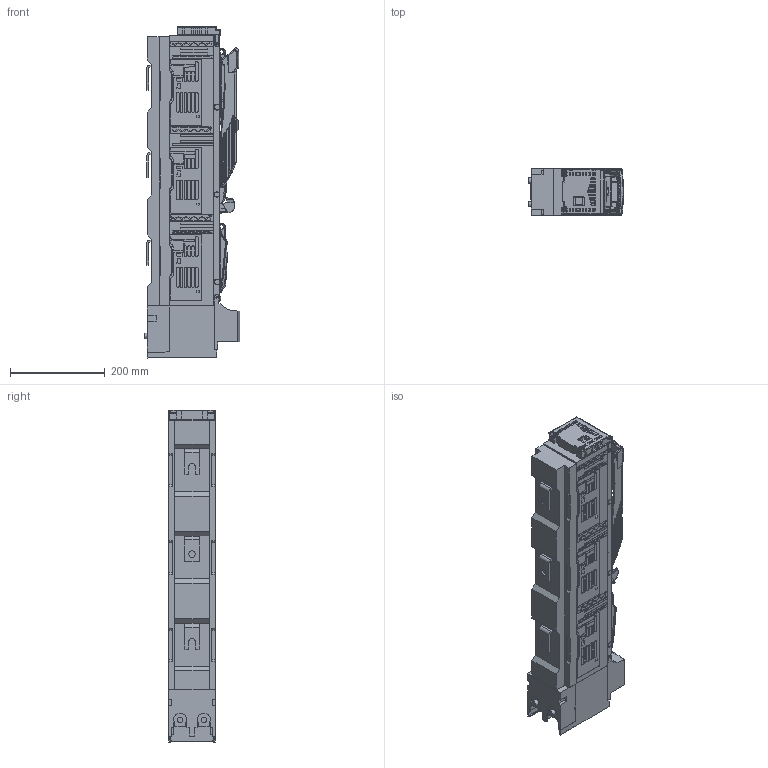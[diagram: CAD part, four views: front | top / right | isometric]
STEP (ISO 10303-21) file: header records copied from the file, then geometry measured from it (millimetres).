
FILE_DESCRIPTION(/* description */ (''),/* implementation_level */ '2;1');
FILE_NAME(/* name */ 'smartARS 3-6-M.stp',/* time_stamp */ '2019-11-19T14:22:24+01:00',/* author */ (''),/* organization */ (''),/* preprocessor_version */ 'ST-DEVELOPER v16.7',/* originating_system */ 'SIEMENS PLM Software NX 1847',/* authorisation */ '');
FILE_SCHEMA (('AP203_CONFIGURATION_CONTROLLED_3D_DESIGN_OF_MECHANICAL_PARTS_AND_ASSEMBLIES_MIM_LF { 1 0 10303 403 2 1 2}'));
Products named in the file (1): 710_2B942B3A7wb9
Bounding box: 201.35 x 99.32 x 702.37 mm (x, y, z)
Volume: 8920763.5 mm3; surface area: 834937 mm2
Topology: 1 solids, 24 shells, 8068 faces, 21302 edges, 13380 vertices
Faces by surface type: plane 3305, bspline 2452, cylinder 1294, extrusion 495, torus 205, sphere 158, cone 157, revolution 2
Full cylindrical faces by diameter (mm): 3 x7, 3.5 x5, 3.7 x4, 4.1 x1, 5 x2, 6.5 x1, 7.9 x2, 8 x1, 9.5 x4, 9.6 x2, 11.701 x6, 14 x1
Entity records: 349857 total; most frequent: CARTESIAN_POINT 170983, ORIENTED_EDGE 42142, DIRECTION 29845, EDGE_CURVE 21071, VERTEX_POINT 13358, VECTOR 10383, LINE 9888, AXIS2_PLACEMENT_3D 9730
